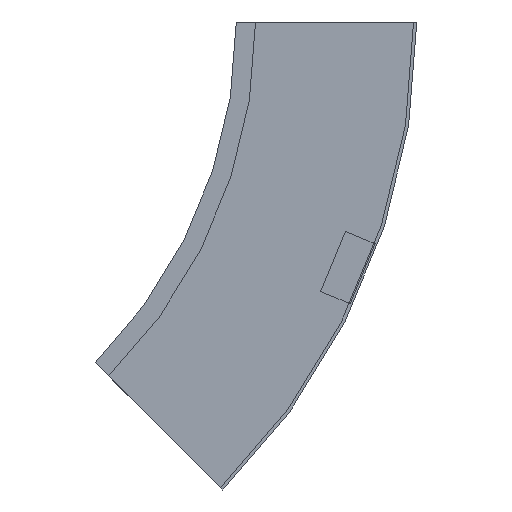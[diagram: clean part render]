
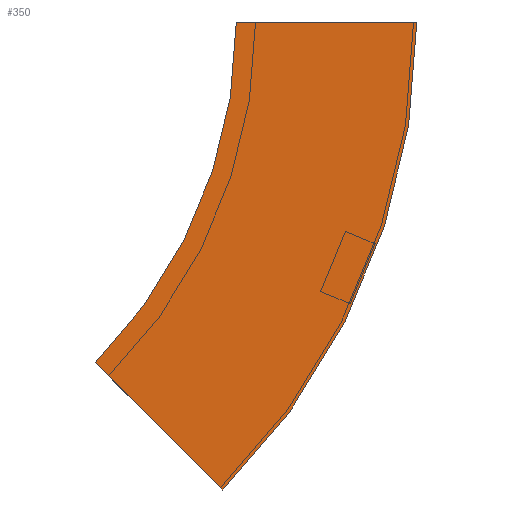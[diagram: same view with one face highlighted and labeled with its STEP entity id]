
A CAD part, left-side view. The second image highlights one B-rep face of the part: STEP entity #350.
In plain terms, the highlighted planar face has unit normal (-1, 0, 0) as drawn and (1, 0, 0) by its records, which use the part's own axes.
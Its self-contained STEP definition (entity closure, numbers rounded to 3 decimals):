
#31 = VERTEX_POINT ( 'NONE', #218 ) ;
#35 = CIRCLE ( 'NONE', #521, 412.5 ) ;
#62 = CIRCLE ( 'NONE', #100, 300. ) ;
#87 = VECTOR ( 'NONE', #256, 1000. ) ;
#88 = CARTESIAN_POINT ( 'NONE',  ( 0., 87.868, -212.132 ) ) ;
#100 = AXIS2_PLACEMENT_3D ( 'NONE', #326, #466, #475 ) ;
#117 = DIRECTION ( 'NONE',  ( 1., 0., 0. ) ) ;
#118 = LINE ( 'NONE', #437, #87 ) ;
#122 = ORIENTED_EDGE ( 'NONE', *, *, #353, .T. ) ;
#152 = VECTOR ( 'NONE', #300, 1000. ) ;
#153 = VERTEX_POINT ( 'NONE', #88 ) ;
#161 = VERTEX_POINT ( 'NONE', #400 ) ;
#200 = AXIS2_PLACEMENT_3D ( 'NONE', #281, #322, #373 ) ;
#201 = FACE_OUTER_BOUND ( 'NONE', #254, .T. ) ;
#218 = CARTESIAN_POINT ( 'NONE',  ( 0., -112.5, 0. ) ) ;
#235 = DIRECTION ( 'NONE',  ( 0., -1., 0. ) ) ;
#254 = EDGE_LOOP ( 'NONE', ( #342, #413, #122, #319 ) ) ;
#256 = DIRECTION ( 'NONE',  ( 0., 0.707, 0.707 ) ) ;
#281 = CARTESIAN_POINT ( 'NONE',  ( 0., -112.5, 0. ) ) ;
#300 = DIRECTION ( 'NONE',  ( 0., 1., 0. ) ) ;
#319 = ORIENTED_EDGE ( 'NONE', *, *, #422, .T. ) ;
#322 = DIRECTION ( 'NONE',  ( -1., 0., 0. ) ) ;
#326 = CARTESIAN_POINT ( 'NONE',  ( 0., 300., 0. ) ) ;
#342 = ORIENTED_EDGE ( 'NONE', *, *, #384, .F. ) ;
#350 = ADVANCED_FACE ( 'NONE', ( #201 ), #554, .F. ) ;
#353 = EDGE_CURVE ( 'NONE', #31, #381, #35, .T. ) ;
#373 = DIRECTION ( 'NONE',  ( 0., 0., 1. ) ) ;
#376 = CARTESIAN_POINT ( 'NONE',  ( 0., -112.5, 0. ) ) ;
#381 = VERTEX_POINT ( 'NONE', #511 ) ;
#384 = EDGE_CURVE ( 'NONE', #161, #153, #62, .T. ) ;
#400 = CARTESIAN_POINT ( 'NONE',  ( 0., 0., 0. ) ) ;
#413 = ORIENTED_EDGE ( 'NONE', *, *, #424, .F. ) ;
#422 = EDGE_CURVE ( 'NONE', #381, #153, #118, .T. ) ;
#424 = EDGE_CURVE ( 'NONE', #31, #161, #442, .T. ) ;
#437 = CARTESIAN_POINT ( 'NONE',  ( 0., 8.318, -291.682 ) ) ;
#442 = LINE ( 'NONE', #376, #152 ) ;
#466 = DIRECTION ( 'NONE',  ( 1., 0., 0. ) ) ;
#475 = DIRECTION ( 'NONE',  ( 0., -1., 0. ) ) ;
#500 = CARTESIAN_POINT ( 'NONE',  ( 0., 300., 0. ) ) ;
#511 = CARTESIAN_POINT ( 'NONE',  ( 0., 8.318, -291.682 ) ) ;
#521 = AXIS2_PLACEMENT_3D ( 'NONE', #500, #117, #235 ) ;
#554 = PLANE ( 'NONE',  #200 ) ;
